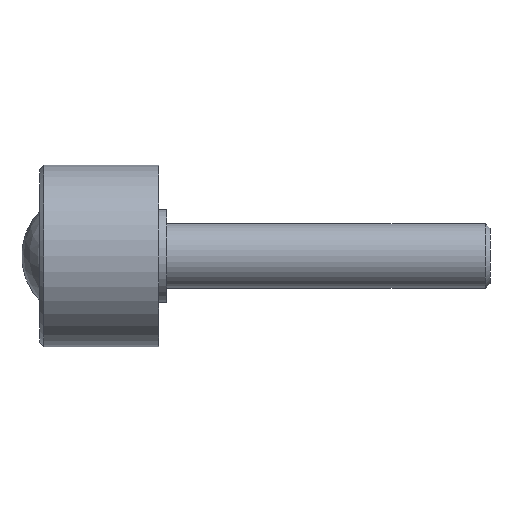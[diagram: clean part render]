
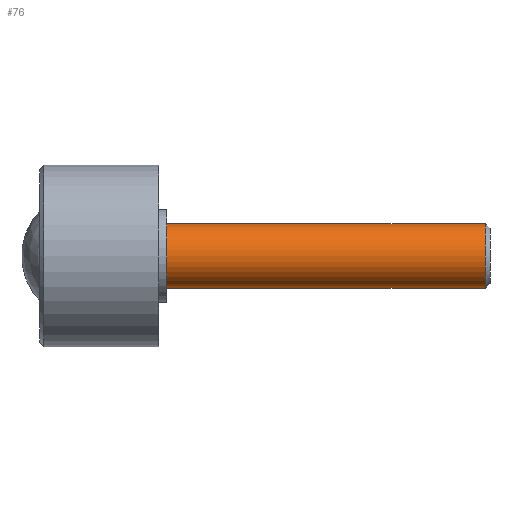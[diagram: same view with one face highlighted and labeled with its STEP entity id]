
A CAD part, left-side view. The second image highlights one B-rep face of the part: STEP entity #76.
In plain terms, the highlighted cylindrical face has radius 8 mm (diameter 16 mm), a full revolution.
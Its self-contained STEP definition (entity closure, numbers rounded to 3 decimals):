
#76 = ADVANCED_FACE( '', ( #93, #94 ), #95, .T. );
#93 = FACE_OUTER_BOUND( '', #134, .T. );
#94 = FACE_OUTER_BOUND( '', #135, .T. );
#95 = CYLINDRICAL_SURFACE( '', #136, 8. );
#134 = EDGE_LOOP( '', ( #177 ) );
#135 = EDGE_LOOP( '', ( #178 ) );
#136 = AXIS2_PLACEMENT_3D( '', #179, #180, #181 );
#177 = ORIENTED_EDGE( '', *, *, #242, .F. );
#178 = ORIENTED_EDGE( '', *, *, #243, .T. );
#179 = CARTESIAN_POINT( '', ( 0., -80., 0. ) );
#180 = DIRECTION( '', ( 0., 1., 0. ) );
#181 = DIRECTION( '', ( 0., 0., -1. ) );
#242 = EDGE_CURVE( '', #257, #257, #258, .T. );
#243 = EDGE_CURVE( '', #259, #259, #260, .T. );
#257 = VERTEX_POINT( '', #283 );
#258 = CIRCLE( '', #284, 8. );
#259 = VERTEX_POINT( '', #285 );
#260 = CIRCLE( '', #286, 8. );
#283 = CARTESIAN_POINT( '', ( 0., -78.773, -8. ) );
#284 = AXIS2_PLACEMENT_3D( '', #393, #394, #395 );
#285 = CARTESIAN_POINT( '', ( 0., 0., -8. ) );
#286 = AXIS2_PLACEMENT_3D( '', #396, #397, #398 );
#393 = CARTESIAN_POINT( '', ( 0., -78.773, 0. ) );
#394 = DIRECTION( '', ( 0., -1., 0. ) );
#395 = DIRECTION( '', ( 0., 0., -1. ) );
#396 = CARTESIAN_POINT( '', ( 0., 0., 0. ) );
#397 = DIRECTION( '', ( 0., -1., 0. ) );
#398 = DIRECTION( '', ( 0., 0., -1. ) );
